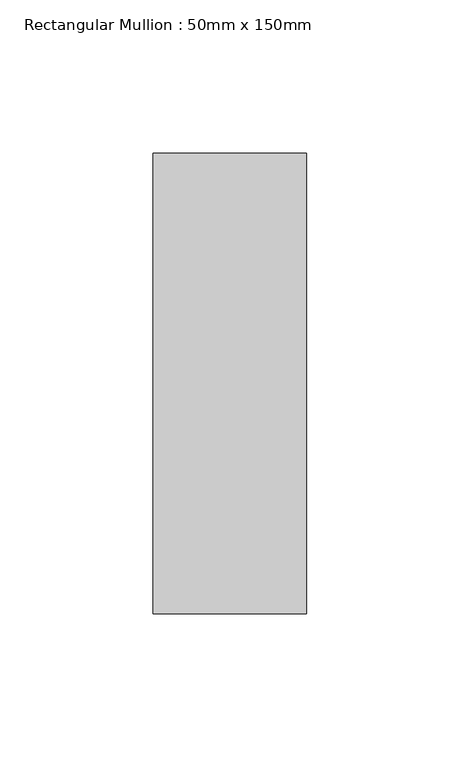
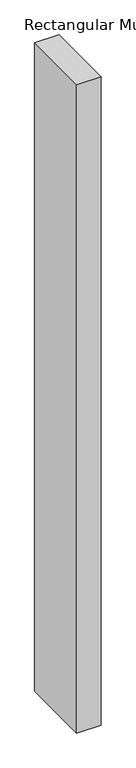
"""IFC4 building model written with IfcOpenShell, lengths in millimetres: member geometry, Rectangular Mullion : 50mm x 150mm."""

from ifc_helpers import new_model, si_unit, frame, origin, place, context, project, spatial, polyline, outline, extrude, source, transform, mapped, element, save


def rectangular_mullion_50mm_x_150mm_0f59f38f(model_context):
    return source(origin(), model_context, "Body", "SweptSolid", [
        extrude(outline(polyline([(0.0, 75.0), (0.0, -75.0), (-50.0, -75.0), (-50.0, 75.0), (0.0, 75.0)])), frame((0.0, 0.0, -1415.0), z_axis=(0.0, 0.0, 1.0), x_axis=(1.0, 0.0, 0.0)), (0.0, 0.0, 1.0), 1415.0),
    ])


if __name__ == "__main__":
    model = new_model("IFC4")
    model_context = context("Model", 3, world=origin())
    ifc_project = project(units=[si_unit("LENGTHUNIT", "METRE", prefix="MILLI")], contexts=[model_context])
    site = spatial("IfcSite", under=ifc_project)
    building = spatial("IfcBuilding", under=site)
    placement = place(None, origin())
    rectangular_mullion_50mm_x_150mm_shape = rectangular_mullion_50mm_x_150mm_0f59f38f(model_context)
    element("IfcMember", 1, ObjectType="Rectangular Mullion : 50mm x 150mm", at=placement, inside=building, context=model_context, shape_type="MappedRepresentation", body=[
        mapped(rectangular_mullion_50mm_x_150mm_shape, transform((0.0, 0.0, 0.0), x_axis=(1.0, 0.0, 0.0), y_axis=(0.0, 1.0, 0.0), z_axis=(0.0, 0.0, 1.0))),
    ])
    save(model, "model.ifc")
